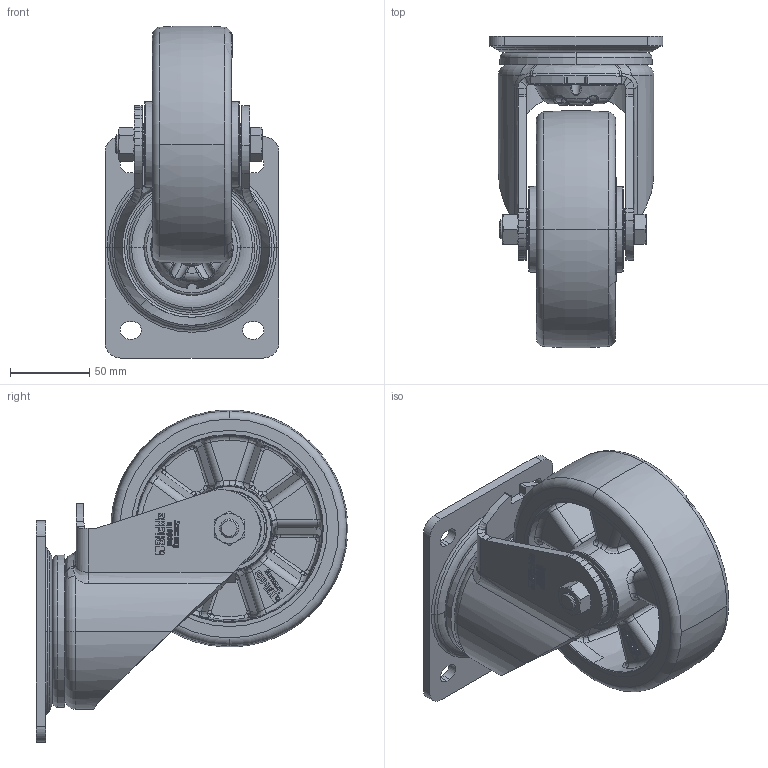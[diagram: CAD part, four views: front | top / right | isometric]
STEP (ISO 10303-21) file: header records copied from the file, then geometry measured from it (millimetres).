
FILE_DESCRIPTION (( 'STEP AP214' ), '1' );
FILE_NAME ('LH-ALTH_150K_295279-214.step', '2021-12-29T22:12:07', ( '' ), ( '' ), 'SwSTEP 2.0', 'SolidWorks 2018', '' );
FILE_SCHEMA (( 'AUTOMOTIVE_DESIGN' ));
Length unit declared in the file: millimetre
Products named in the file (5): LH-ALTH_150K_295279-214; ALTH_3D_G16_ALTH_150_20K_284513; GH-LH-160x60-03_20x60_G16_3D; GH-LH_150-160_GH-LH-160x60-03_20x60; ALTH_150_20K_G16_3D
Assembly tree (4 placements, depth 3):
  LH-ALTH_150K_295279-214
    GH-LH_150-160_GH-LH-160x60-03_20x60
      GH-LH-160x60-03_20x60_G16_3D
    ALTH_3D_G16_ALTH_150_20K_284513
      ALTH_150_20K_G16_3D
Bounding box: 110 x 196.91 x 209.91 mm (x, y, z)
Volume: 829197.9 mm3; surface area: 218418.3 mm2
Topology: 2 solids, 5 shells, 2392 faces, 6235 edges, 4016 vertices
Faces by surface type: plane 1003, bspline 928, torus 187, cylinder 160, cone 76, sphere 38
Entity records: 98835 total; most frequent: CARTESIAN_POINT 42393, ORIENTED_EDGE 12466, DIRECTION 7944, EDGE_CURVE 6233, VERTEX_POINT 4018, VECTOR 3180, LINE 3180, EDGE_LOOP 2577
